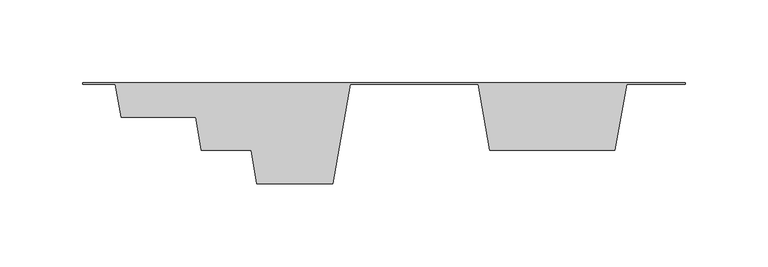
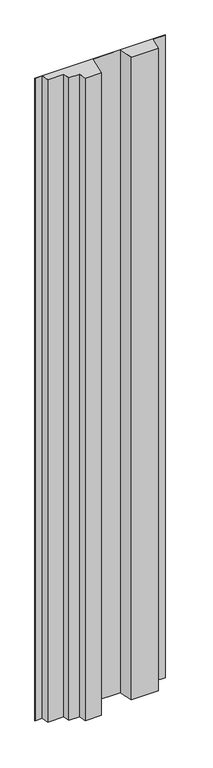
"""IFC4 building model written with IfcOpenShell, lengths in millimetres: plate geometry, ATELIERS 3S_NEW YORK MANHATTAN 780_VERTICAL : AZURO."""

from ifc_helpers import new_model, si_unit, origin, origin_with_axes, place, context, project, spatial, polyline, outline, extrude, source, transform, mapped, element, save


def plate_ab7f808c(model_context):
    return source(origin(), model_context, "Body", "SweptSolid", [
        extrude(outline(polyline([(-162.3146622, -0.864757), (-181.9999998, -0.864757), (-181.9999998, 0.0), (181.9999998, 0.0), (181.9999998, -0.864757), (146.5800587, -0.864757), (139.5269794, -40.864757), (63.8976547, -40.864757), (56.8445755, -0.864757), (-20.5260998, -0.864757), (-31.1057186, -60.864757), (-76.7350434, -60.864757), (-80.261583, -40.864757), (-110.261583, -40.864757), (-113.7881226, -20.864757), (-158.7881226, -20.864757), (-162.3146622, -0.864757)])), origin_with_axes(), (0.0, 0.0, 1.0), 1900.0),
    ])


if __name__ == "__main__":
    model = new_model("IFC4")
    model_context = context("Model", 3, world=origin())
    ifc_project = project(units=[si_unit("LENGTHUNIT", "METRE", prefix="MILLI")], contexts=[model_context])
    site = spatial("IfcSite", under=ifc_project)
    building = spatial("IfcBuilding", under=site)
    placement = place(None, origin())
    plate_shape = plate_ab7f808c(model_context)
    element("IfcPlate", 1, ObjectType="ATELIERS 3S_NEW YORK MANHATTAN 780_VERTICAL : AZURO", at=placement, inside=building, context=model_context, shape_type="MappedRepresentation", body=[
        mapped(plate_shape, transform((0.0, 0.0, 0.0), x_axis=(1.0, 0.0, 0.0), y_axis=(0.0, 1.0, 0.0), z_axis=(0.0, 0.0, 1.0))),
    ])
    save(model, "model.ifc")
